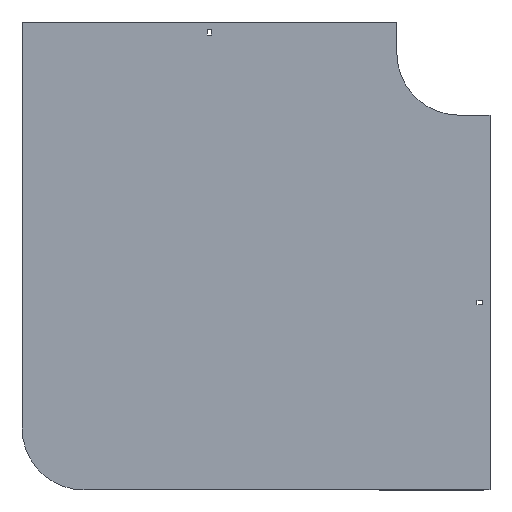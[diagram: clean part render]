
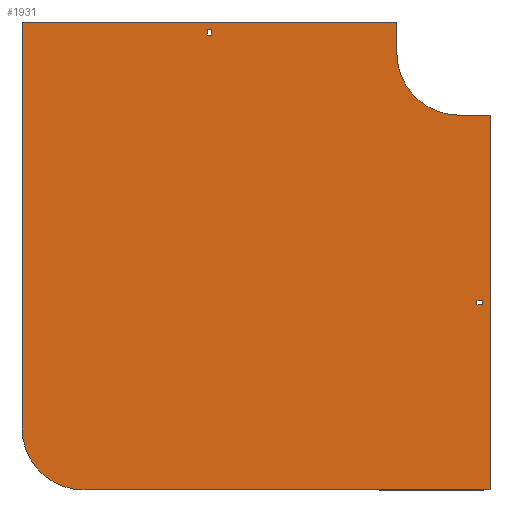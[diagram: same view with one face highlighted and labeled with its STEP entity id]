
A CAD part, front view. The second image highlights one B-rep face of the part: STEP entity #1931.
In plain terms, the highlighted planar face has unit normal (0, -1, 0).
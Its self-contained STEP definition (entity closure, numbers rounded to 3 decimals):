
#25 = EDGE_CURVE ( 'NONE', #1804, #1373, #1018, .T. ) ;
#32 = ORIENTED_EDGE ( 'NONE', *, *, #540, .T. ) ;
#38 = VERTEX_POINT ( 'NONE', #392 ) ;
#97 = LINE ( 'NONE', #1747, #1385 ) ;
#107 = DIRECTION ( 'NONE',  ( 1., 0., 0. ) ) ;
#115 = EDGE_CURVE ( 'NONE', #1546, #479, #1253, .T. ) ;
#124 = AXIS2_PLACEMENT_3D ( 'NONE', #1406, #1418, #961 ) ;
#135 = EDGE_CURVE ( 'NONE', #38, #750, #677, .T. ) ;
#163 = VERTEX_POINT ( 'NONE', #1792 ) ;
#165 = CARTESIAN_POINT ( 'NONE',  ( -405.25, 0., 29. ) ) ;
#179 = CARTESIAN_POINT ( 'NONE',  ( -704., 0., -604. ) ) ;
#212 = CARTESIAN_POINT ( 'NONE',  ( 0., 0., 0. ) ) ;
#220 = LINE ( 'NONE', #1697, #1067 ) ;
#222 = DIRECTION ( 'NONE',  ( 0., 0., 1. ) ) ;
#276 = CARTESIAN_POINT ( 'NONE',  ( 50., 0., -100. ) ) ;
#315 = VERTEX_POINT ( 'NONE', #1374 ) ;
#344 = EDGE_CURVE ( 'NONE', #1825, #1637, #1120, .T. ) ;
#353 = VECTOR ( 'NONE', #1916, 1000. ) ;
#368 = CARTESIAN_POINT ( 'NONE',  ( -704., 0., -604. ) ) ;
#392 = CARTESIAN_POINT ( 'NONE',  ( 50., 0., -704. ) ) ;
#428 = CARTESIAN_POINT ( 'NONE',  ( 29., 0., -405.25 ) ) ;
#470 = FACE_BOUND ( 'NONE', #840, .T. ) ;
#479 = VERTEX_POINT ( 'NONE', #1786 ) ;
#495 = EDGE_CURVE ( 'NONE', #163, #1372, #1189, .T. ) ;
#500 = VECTOR ( 'NONE', #1269, 1000. ) ;
#540 = EDGE_CURVE ( 'NONE', #1373, #1175, #899, .T. ) ;
#556 = ORIENTED_EDGE ( 'NONE', *, *, #823, .F. ) ;
#650 = ORIENTED_EDGE ( 'NONE', *, *, #903, .F. ) ;
#657 = CARTESIAN_POINT ( 'NONE',  ( -704., 0., 50. ) ) ;
#675 = VECTOR ( 'NONE', #1757, 1000. ) ;
#677 = LINE ( 'NONE', #1256, #500 ) ;
#688 = EDGE_LOOP ( 'NONE', ( #1565, #1087, #1733, #1426, #650, #1477, #946, #1316 ) ) ;
#707 = ORIENTED_EDGE ( 'NONE', *, *, #495, .F. ) ;
#710 = CARTESIAN_POINT ( 'NONE',  ( 50., 0., -100. ) ) ;
#712 = LINE ( 'NONE', #276, #1755 ) ;
#750 = VERTEX_POINT ( 'NONE', #855 ) ;
#762 = CARTESIAN_POINT ( 'NONE',  ( 29., 0., -405.25 ) ) ;
#820 = DIRECTION ( 'NONE',  ( 0., 0., -1. ) ) ;
#823 = EDGE_CURVE ( 'NONE', #315, #1479, #97, .T. ) ;
#825 = DIRECTION ( 'NONE',  ( 0., -1., 0. ) ) ;
#840 = EDGE_LOOP ( 'NONE', ( #1645, #1050, #32, #1290 ) ) ;
#855 = CARTESIAN_POINT ( 'NONE',  ( -604., 0., -704. ) ) ;
#866 = CARTESIAN_POINT ( 'NONE',  ( -405.25, 0., 38. ) ) ;
#878 = CARTESIAN_POINT ( 'NONE',  ( 38., 0., -398.75 ) ) ;
#887 = CARTESIAN_POINT ( 'NONE',  ( 0., 0., -100. ) ) ;
#889 = DIRECTION ( 'NONE',  ( -1., 0., 0. ) ) ;
#897 = DIRECTION ( 'NONE',  ( 0., 0., -1. ) ) ;
#899 = LINE ( 'NONE', #1496, #675 ) ;
#903 = EDGE_CURVE ( 'NONE', #1230, #38, #712, .T. ) ;
#909 = VECTOR ( 'NONE', #820, 1000. ) ;
#911 = EDGE_CURVE ( 'NONE', #1479, #163, #1766, .T. ) ;
#919 = EDGE_CURVE ( 'NONE', #1372, #315, #1494, .T. ) ;
#936 = CARTESIAN_POINT ( 'NONE',  ( -604., 0., -604. ) ) ;
#946 = ORIENTED_EDGE ( 'NONE', *, *, #115, .F. ) ;
#948 = DIRECTION ( 'NONE',  ( 0., 1., 0. ) ) ;
#961 = DIRECTION ( 'NONE',  ( 0., 0., -1. ) ) ;
#968 = FACE_OUTER_BOUND ( 'NONE', #688, .T. ) ;
#997 = VERTEX_POINT ( 'NONE', #1187 ) ;
#1018 = LINE ( 'NONE', #866, #1498 ) ;
#1035 = CIRCLE ( 'NONE', #1905, 100. ) ;
#1046 = CARTESIAN_POINT ( 'NONE',  ( 29., 0., -398.75 ) ) ;
#1050 = ORIENTED_EDGE ( 'NONE', *, *, #25, .T. ) ;
#1067 = VECTOR ( 'NONE', #1130, 1000. ) ;
#1071 = ORIENTED_EDGE ( 'NONE', *, *, #919, .F. ) ;
#1073 = VERTEX_POINT ( 'NONE', #179 ) ;
#1076 = LINE ( 'NONE', #165, #1258 ) ;
#1087 = ORIENTED_EDGE ( 'NONE', *, *, #1950, .F. ) ;
#1120 = LINE ( 'NONE', #1229, #1470 ) ;
#1130 = DIRECTION ( 'NONE',  ( -1., 0., 0. ) ) ;
#1144 = EDGE_LOOP ( 'NONE', ( #707, #1335, #556, #1071 ) ) ;
#1147 = CARTESIAN_POINT ( 'NONE',  ( -100., 0., 50. ) ) ;
#1167 = VECTOR ( 'NONE', #1181, 1000. ) ;
#1174 = DIRECTION ( 'NONE',  ( 0., 0., 1. ) ) ;
#1175 = VERTEX_POINT ( 'NONE', #1566 ) ;
#1180 = EDGE_CURVE ( 'NONE', #1175, #997, #220, .T. ) ;
#1181 = DIRECTION ( 'NONE',  ( 1., 0., 0. ) ) ;
#1187 = CARTESIAN_POINT ( 'NONE',  ( -405.25, 0., 29. ) ) ;
#1189 = LINE ( 'NONE', #1909, #1858 ) ;
#1192 = CARTESIAN_POINT ( 'NONE',  ( -100., 0., 0. ) ) ;
#1229 = CARTESIAN_POINT ( 'NONE',  ( -704., 0., 50. ) ) ;
#1230 = VERTEX_POINT ( 'NONE', #710 ) ;
#1253 = CIRCLE ( 'NONE', #124, 100. ) ;
#1256 = CARTESIAN_POINT ( 'NONE',  ( 50., 0., -704. ) ) ;
#1258 = VECTOR ( 'NONE', #1660, 1000. ) ;
#1269 = DIRECTION ( 'NONE',  ( -1., 0., 0. ) ) ;
#1290 = ORIENTED_EDGE ( 'NONE', *, *, #1180, .T. ) ;
#1316 = ORIENTED_EDGE ( 'NONE', *, *, #1620, .F. ) ;
#1330 = EDGE_CURVE ( 'NONE', #479, #1230, #1616, .T. ) ;
#1335 = ORIENTED_EDGE ( 'NONE', *, *, #911, .F. ) ;
#1372 = VERTEX_POINT ( 'NONE', #878 ) ;
#1373 = VERTEX_POINT ( 'NONE', #1745 ) ;
#1374 = CARTESIAN_POINT ( 'NONE',  ( 29., 0., -398.75 ) ) ;
#1385 = VECTOR ( 'NONE', #1452, 1000. ) ;
#1406 = CARTESIAN_POINT ( 'NONE',  ( 0., 0., 0. ) ) ;
#1418 = DIRECTION ( 'NONE',  ( 0., -1., 0. ) ) ;
#1426 = ORIENTED_EDGE ( 'NONE', *, *, #135, .F. ) ;
#1430 = EDGE_CURVE ( 'NONE', #997, #1804, #1076, .T. ) ;
#1448 = CARTESIAN_POINT ( 'NONE',  ( -405.25, 0., 38. ) ) ;
#1452 = DIRECTION ( 'NONE',  ( 0., 0., -1. ) ) ;
#1470 = VECTOR ( 'NONE', #1818, 1000. ) ;
#1477 = ORIENTED_EDGE ( 'NONE', *, *, #1330, .F. ) ;
#1479 = VERTEX_POINT ( 'NONE', #762 ) ;
#1494 = LINE ( 'NONE', #1046, #1657 ) ;
#1495 = AXIS2_PLACEMENT_3D ( 'NONE', #212, #825, #1656 ) ;
#1496 = CARTESIAN_POINT ( 'NONE',  ( -398.75, 0., 29. ) ) ;
#1498 = VECTOR ( 'NONE', #107, 1000. ) ;
#1546 = VERTEX_POINT ( 'NONE', #1192 ) ;
#1559 = FACE_BOUND ( 'NONE', #1144, .T. ) ;
#1565 = ORIENTED_EDGE ( 'NONE', *, *, #344, .F. ) ;
#1566 = CARTESIAN_POINT ( 'NONE',  ( -398.75, 0., 29. ) ) ;
#1616 = LINE ( 'NONE', #887, #353 ) ;
#1620 = EDGE_CURVE ( 'NONE', #1637, #1546, #1696, .T. ) ;
#1637 = VERTEX_POINT ( 'NONE', #1736 ) ;
#1645 = ORIENTED_EDGE ( 'NONE', *, *, #1430, .T. ) ;
#1656 = DIRECTION ( 'NONE',  ( 0., 0., -1. ) ) ;
#1657 = VECTOR ( 'NONE', #889, 1000. ) ;
#1660 = DIRECTION ( 'NONE',  ( 0., 0., 1. ) ) ;
#1667 = PLANE ( 'NONE',  #1495 ) ;
#1696 = LINE ( 'NONE', #1147, #909 ) ;
#1697 = CARTESIAN_POINT ( 'NONE',  ( -405.25, 0., 29. ) ) ;
#1712 = LINE ( 'NONE', #368, #1773 ) ;
#1733 = ORIENTED_EDGE ( 'NONE', *, *, #1873, .F. ) ;
#1736 = CARTESIAN_POINT ( 'NONE',  ( -100., 0., 50. ) ) ;
#1745 = CARTESIAN_POINT ( 'NONE',  ( -398.75, 0., 38. ) ) ;
#1747 = CARTESIAN_POINT ( 'NONE',  ( 29., 0., -405.25 ) ) ;
#1755 = VECTOR ( 'NONE', #897, 1000. ) ;
#1757 = DIRECTION ( 'NONE',  ( 0., 0., -1. ) ) ;
#1766 = LINE ( 'NONE', #428, #1167 ) ;
#1773 = VECTOR ( 'NONE', #222, 1000. ) ;
#1786 = CARTESIAN_POINT ( 'NONE',  ( 0., 0., -100. ) ) ;
#1792 = CARTESIAN_POINT ( 'NONE',  ( 38., 0., -405.25 ) ) ;
#1804 = VERTEX_POINT ( 'NONE', #1448 ) ;
#1818 = DIRECTION ( 'NONE',  ( 1., 0., 0. ) ) ;
#1825 = VERTEX_POINT ( 'NONE', #657 ) ;
#1858 = VECTOR ( 'NONE', #1174, 1000. ) ;
#1861 = DIRECTION ( 'NONE',  ( 0., 0., 1. ) ) ;
#1873 = EDGE_CURVE ( 'NONE', #750, #1073, #1035, .T. ) ;
#1905 = AXIS2_PLACEMENT_3D ( 'NONE', #936, #948, #1861 ) ;
#1909 = CARTESIAN_POINT ( 'NONE',  ( 38., 0., -405.25 ) ) ;
#1916 = DIRECTION ( 'NONE',  ( 1., 0., 0. ) ) ;
#1931 = ADVANCED_FACE ( 'NONE', ( #470, #968, #1559 ), #1667, .T. ) ;
#1950 = EDGE_CURVE ( 'NONE', #1073, #1825, #1712, .T. ) ;
